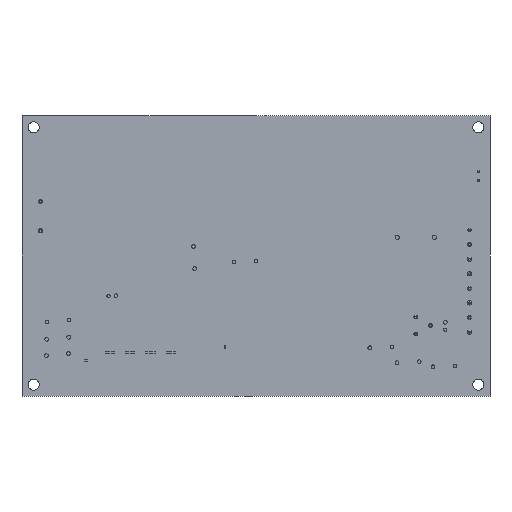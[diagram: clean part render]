
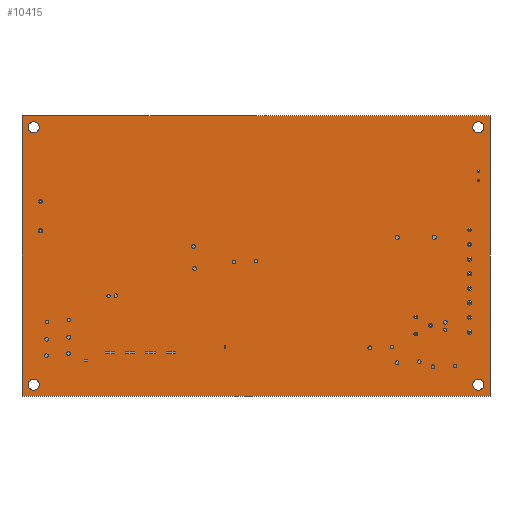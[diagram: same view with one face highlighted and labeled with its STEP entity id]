
A CAD part, front view. The second image highlights one B-rep face of the part: STEP entity #10415.
In plain terms, the highlighted planar face has unit normal (0, -1, 0).
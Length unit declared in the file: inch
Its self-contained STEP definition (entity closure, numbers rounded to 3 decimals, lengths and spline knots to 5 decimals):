
#76 = ORIENTED_EDGE ( 'NONE', *, *, #13554, .T. ) ;
#399 = FACE_OUTER_BOUND ( 'NONE', #9279, .T. ) ;
#788 = LINE ( 'NONE', #3975, #8211 ) ;
#876 = EDGE_CURVE ( 'NONE', #6080, #6080, #979, .T. ) ;
#979 = CIRCLE ( 'NONE', #11590, 0.05906 ) ;
#1110 = ORIENTED_EDGE ( 'NONE', *, *, #13558, .T. ) ;
#1816 = DIRECTION ( 'NONE',  ( 0., 0., 1. ) ) ;
#1831 = DIRECTION ( 'NONE',  ( 0., 1., 0. ) ) ;
#1858 = CARTESIAN_POINT ( 'NONE',  ( 0.125, 0., 2.875 ) ) ;
#1894 = VERTEX_POINT ( 'NONE', #8830 ) ;
#2212 = LINE ( 'NONE', #4576, #16641 ) ;
#2354 = AXIS2_PLACEMENT_3D ( 'NONE', #4626, #4622, #4601 ) ;
#2388 = AXIS2_PLACEMENT_3D ( 'NONE', #4808, #4785, #4767 ) ;
#2688 = LINE ( 'NONE', #4679, #13035 ) ;
#3933 = DIRECTION ( 'NONE',  ( 0., 0., 1. ) ) ;
#3975 = CARTESIAN_POINT ( 'NONE',  ( 5., 0., 0. ) ) ;
#4126 = DIRECTION ( 'NONE',  ( 1., 0., 0. ) ) ;
#4234 = CARTESIAN_POINT ( 'NONE',  ( 0., 0., 0. ) ) ;
#4377 = FACE_BOUND ( 'NONE', #16730, .T. ) ;
#4576 = CARTESIAN_POINT ( 'NONE',  ( 0., 0., 3. ) ) ;
#4580 = DIRECTION ( 'NONE',  ( 0., 0., -1. ) ) ;
#4601 = DIRECTION ( 'NONE',  ( 0., 0., 1. ) ) ;
#4622 = DIRECTION ( 'NONE',  ( 0., 1., 0. ) ) ;
#4626 = CARTESIAN_POINT ( 'NONE',  ( 0.125, 0., 0.125 ) ) ;
#4660 = DIRECTION ( 'NONE',  ( -1., 0., 0. ) ) ;
#4679 = CARTESIAN_POINT ( 'NONE',  ( 0., 0., 0. ) ) ;
#4767 = DIRECTION ( 'NONE',  ( 0., 0., 1. ) ) ;
#4785 = DIRECTION ( 'NONE',  ( 0., 1., 0. ) ) ;
#4804 = AXIS2_PLACEMENT_3D ( 'NONE', #5996, #6157, #5948 ) ;
#4808 = CARTESIAN_POINT ( 'NONE',  ( 4.875, 0., 0.125 ) ) ;
#4871 = VERTEX_POINT ( 'NONE', #11732 ) ;
#4888 = DIRECTION ( 'NONE',  ( 0., 0., 1. ) ) ;
#4893 = DIRECTION ( 'NONE',  ( 0., 1., 0. ) ) ;
#4912 = CARTESIAN_POINT ( 'NONE',  ( 4.875, 0., 2.875 ) ) ;
#5948 = DIRECTION ( 'NONE',  ( 0., 0., 1. ) ) ;
#5996 = CARTESIAN_POINT ( 'NONE',  ( 0., 0., 3. ) ) ;
#6009 = PLANE ( 'NONE',  #4804 ) ;
#6080 = VERTEX_POINT ( 'NONE', #16279 ) ;
#6144 = CIRCLE ( 'NONE', #2354, 0.05906 ) ;
#6157 = DIRECTION ( 'NONE',  ( 0., 1., 0. ) ) ;
#7077 = CIRCLE ( 'NONE', #7472, 0.05906 ) ;
#7259 = ORIENTED_EDGE ( 'NONE', *, *, #13681, .T. ) ;
#7472 = AXIS2_PLACEMENT_3D ( 'NONE', #4912, #4893, #4888 ) ;
#8211 = VECTOR ( 'NONE', #3933, 39.37008 ) ;
#8275 = FACE_BOUND ( 'NONE', #8795, .T. ) ;
#8334 = CARTESIAN_POINT ( 'NONE',  ( 5., 0., 3. ) ) ;
#8394 = EDGE_LOOP ( 'NONE', ( #17995 ) ) ;
#8582 = ORIENTED_EDGE ( 'NONE', *, *, #876, .T. ) ;
#8767 = CARTESIAN_POINT ( 'NONE',  ( 0.125, 0., 0.18406 ) ) ;
#8790 = CARTESIAN_POINT ( 'NONE',  ( 4.875, 0., 0.18406 ) ) ;
#8795 = EDGE_LOOP ( 'NONE', ( #8582 ) ) ;
#8803 = VERTEX_POINT ( 'NONE', #11150 ) ;
#8830 = CARTESIAN_POINT ( 'NONE',  ( 4.875, 0., 2.93406 ) ) ;
#9113 = VECTOR ( 'NONE', #4126, 39.37008 ) ;
#9231 = ORIENTED_EDGE ( 'NONE', *, *, #13608, .T. ) ;
#9279 = EDGE_LOOP ( 'NONE', ( #7259, #11815, #9231, #15631 ) ) ;
#9646 = CARTESIAN_POINT ( 'NONE',  ( 0., 0., 3. ) ) ;
#9962 = LINE ( 'NONE', #4234, #9113 ) ;
#10415 = ADVANCED_FACE ( 'N', ( #399, #11426, #8275, #15019, #4377 ), #6009, .F. ) ;
#10747 = CIRCLE ( 'NONE', #2388, 0.05906 ) ;
#11150 = CARTESIAN_POINT ( 'NONE',  ( 5., 0., 0. ) ) ;
#11426 = FACE_BOUND ( 'NONE', #8394, .T. ) ;
#11590 = AXIS2_PLACEMENT_3D ( 'NONE', #1858, #1831, #1816 ) ;
#11732 = CARTESIAN_POINT ( 'NONE',  ( 0., 0., 0. ) ) ;
#11815 = ORIENTED_EDGE ( 'NONE', *, *, #13687, .T. ) ;
#12046 = EDGE_LOOP ( 'NONE', ( #1110 ) ) ;
#12747 = VERTEX_POINT ( 'NONE', #8767 ) ;
#13035 = VECTOR ( 'NONE', #4580, 39.37008 ) ;
#13554 = EDGE_CURVE ( 'NONE', #1894, #1894, #7077, .T. ) ;
#13558 = EDGE_CURVE ( 'NONE', #16360, #16360, #10747, .T. ) ;
#13582 = EDGE_CURVE ( 'NONE', #12747, #12747, #6144, .T. ) ;
#13586 = EDGE_CURVE ( 'NONE', #17805, #4871, #2688, .T. ) ;
#13608 = EDGE_CURVE ( 'NONE', #16963, #17805, #2212, .T. ) ;
#13681 = EDGE_CURVE ( 'NONE', #4871, #8803, #9962, .T. ) ;
#13687 = EDGE_CURVE ( 'NONE', #8803, #16963, #788, .T. ) ;
#15019 = FACE_BOUND ( 'NONE', #12046, .T. ) ;
#15631 = ORIENTED_EDGE ( 'NONE', *, *, #13586, .T. ) ;
#16279 = CARTESIAN_POINT ( 'NONE',  ( 0.125, 0., 2.93406 ) ) ;
#16360 = VERTEX_POINT ( 'NONE', #8790 ) ;
#16641 = VECTOR ( 'NONE', #4660, 39.37008 ) ;
#16730 = EDGE_LOOP ( 'NONE', ( #76 ) ) ;
#16963 = VERTEX_POINT ( 'NONE', #8334 ) ;
#17805 = VERTEX_POINT ( 'NONE', #9646 ) ;
#17995 = ORIENTED_EDGE ( 'NONE', *, *, #13582, .T. ) ;
